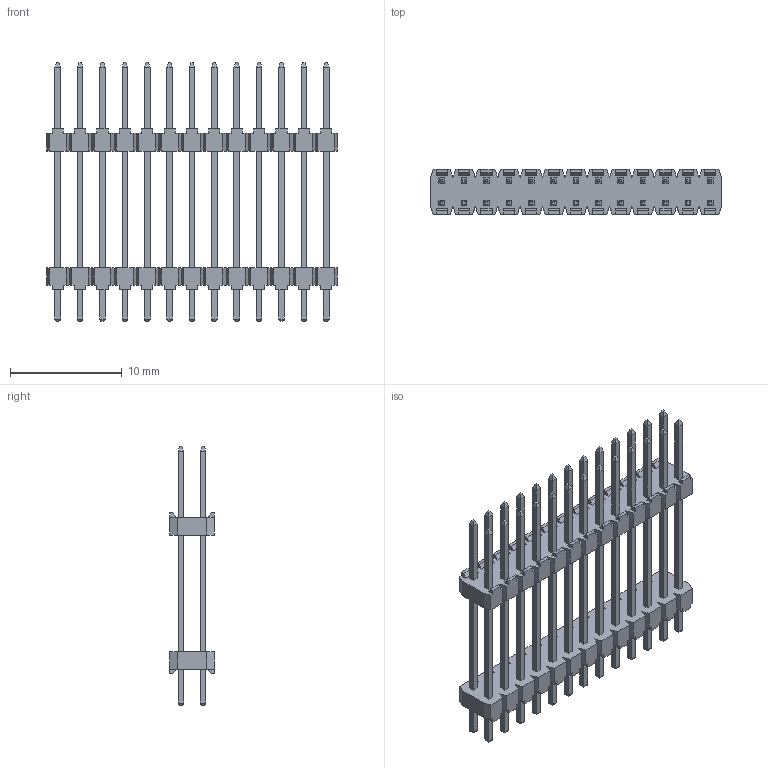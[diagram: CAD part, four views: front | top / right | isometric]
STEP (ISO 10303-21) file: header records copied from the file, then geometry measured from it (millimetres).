
FILE_DESCRIPTION(/* description */ (''),/* implementation_level */ '2;1');
FILE_NAME(/* name */ '951426-8062506-AR',/* time_stamp */ '2007-03-14T10:57:27+01:00',/* author */ (''),/* organization */ (''),/* preprocessor_version */ 'ST-DEVELOPER v9',/* originating_system */ 'UGS - NX 4.0',/* authorisation */ '');
FILE_SCHEMA (('AUTOMOTIVE_DESIGN { 1 0 10303 214 1 1 1 1 }'));
Length unit declared in the file: millimetre
Products named in the file (1): 951426-8062506-AR
Bounding box: 26 x 4 x 23.1 mm (x, y, z)
Volume: 454.8 mm3; surface area: 1719 mm2
Topology: 1 solids, 1 shells, 944 faces, 2456 edges, 1568 vertices
Faces by surface type: plane 840, cylinder 104
Entity records: 28224 total; most frequent: CARTESIAN_POINT 4969, ORIENTED_EDGE 4912, DIRECTION 4450, EDGE_CURVE 2456, LINE 2352, VECTOR 2352, VERTEX_POINT 1568, AXIS2_PLACEMENT_3D 1049
